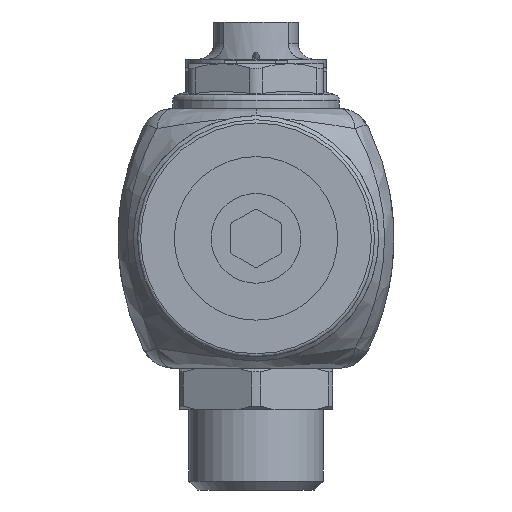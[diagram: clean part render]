
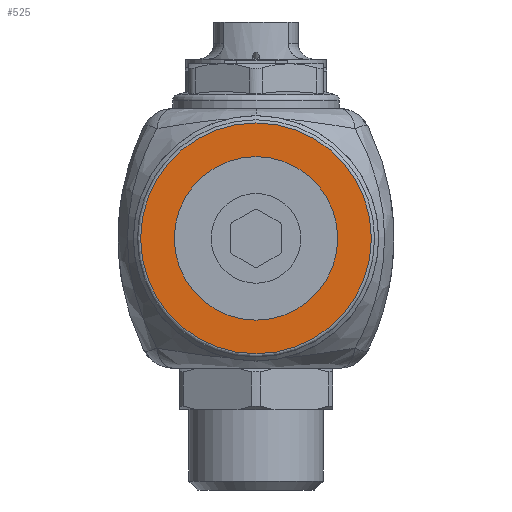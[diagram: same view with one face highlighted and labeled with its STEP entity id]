
A CAD part, front view. The second image highlights one B-rep face of the part: STEP entity #525.
In plain terms, the highlighted planar face has unit normal (0, -1, 0).
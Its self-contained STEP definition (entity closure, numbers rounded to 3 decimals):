
#525=ADVANCED_FACE('',(#16472,#16474),#16476,.F.);
#16472=FACE_BOUND('',#16473,.T.);
#16473=EDGE_LOOP('',(#21794));
#16474=FACE_BOUND('',#16475,.T.);
#16475=EDGE_LOOP('',(#21795));
#16476=PLANE('',#16477);
#16477=AXIS2_PLACEMENT_3D('',#16478,#16479,#16480);
#16478=CARTESIAN_POINT('',(0.,-195.75,0.));
#16479=DIRECTION('',(0.,1.,0.));
#16480=DIRECTION('',(-1.,0.,0.));
#21794=ORIENTED_EDGE('',*,*,#26053,.T.);
#21795=ORIENTED_EDGE('',*,*,#26077,.T.);
#26053=EDGE_CURVE('',#29537,#29537,#29538,.T.);
#26077=EDGE_CURVE('',#29574,#29574,#29575,.F.);
#29537=VERTEX_POINT('',#49262);
#29538=CIRCLE('',#49263,18.);
#29574=VERTEX_POINT('',#49350);
#29575=CIRCLE('',#49351,12.75);
#49262=CARTESIAN_POINT('',(18.,-195.75,0.));
#49263=AXIS2_PLACEMENT_3D('',#49264,#49265,#49266);
#49264=CARTESIAN_POINT('',(0.,-195.75,0.));
#49265=DIRECTION('',(0.,-1.,0.));
#49266=DIRECTION('',(1.,0.,0.));
#49350=CARTESIAN_POINT('',(12.75,-195.75,0.));
#49351=AXIS2_PLACEMENT_3D('',#49352,#49353,#49354);
#49352=CARTESIAN_POINT('',(0.,-195.75,0.));
#49353=DIRECTION('',(0.,-1.,0.));
#49354=DIRECTION('',(1.,0.,0.));
